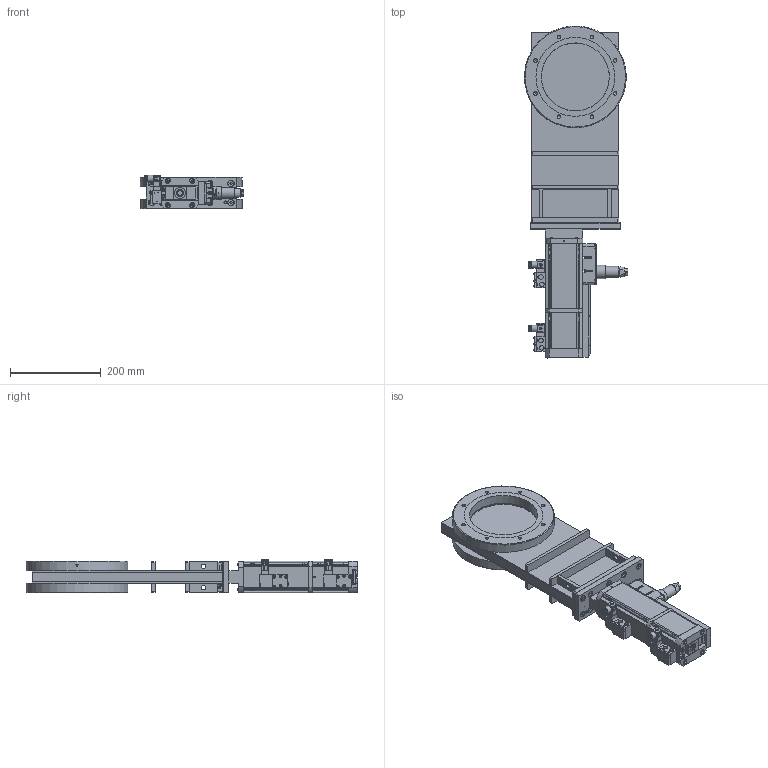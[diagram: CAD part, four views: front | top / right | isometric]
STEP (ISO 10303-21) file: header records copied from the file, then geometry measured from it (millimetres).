
FILE_DESCRIPTION(/* description */ (''),/* implementation_level */ '2;1');
FILE_NAME(/* name */ '1491452060_203.stp',/* time_stamp */ '2016-09-22T08:27:08+02:00',/* author */ (''),/* organization */ (''),/* preprocessor_version */ 'ST-DEVELOPER v15',/* originating_system */ 'SIEMENS PLM Software NX 9.0',/* authorisation */ '');
FILE_SCHEMA (('AP203_CONFIGURATION_CONTROLLED_3D_DESIGN_OF_MECHANICAL_PARTS_AND_ASSEMBLIES_MIM_LF { 1 0 10303 403 2 1 2}'));
Products named in the file (63): 804858_22870ID; 804850_22893ID; 804857_22891ID; 804857_22890ID; 804844_22889ID; 804853_22888ID; 804858_22887ID; 804844_22886ID; 804857_22884ID; 804858_22883ID; 804853_22882ID; 804845_22880ID; 804845_22879ID; 804857_22877ID; 804858_22871ID; 500156; 800510; 387037; 800510_22853ID; 467882; 437235; 51434-01.1_22714ID; 51434-01.1_22875ID; n-6099-492.1; n-6011-049.1; 70973-01.1; 69129.1; 72872-01.1_22778ID; N-7557-016_1.1; N-7557-018.1; N-7557-016_2.1; N-6024-524.1; N-5018-005.1; N-6005-477.1; N-6013-447.1; N-6005-473.1; N-6005-437.1; 72845-01.1; 72846-01.1; 73706-01.1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
Assembly tree (97 placements, depth 4):
  370689.1
    93160-01.1
    94307-r1.2
      73701-01.1  x4
      73704-01.1
      73690-01.1
      70738-01.1
      94311-01.1
      73699-01.1
      72840-01.1
      79606-01.2
      73706-01.1
      72846-01.1
      72845-01.1
      N-6005-437.1  x4
      N-6005-473.1  x2
      N-6013-447.1  x2
      N-6005-477.1  x4
    94800-r1.7_NX-ARRAGMNTKONFIG1  x2
      N-5018-005.1
      N-6024-524.1
      N-7557-016_2.1
      N-7557-018.1
      N-7557-016_1.1
      N-7557-016_3.1_MODELNX-ARRAGMNTArrangement 1
        437235
        467882
    82469-r1.1
      72872-01.1_22778ID
      69129.1
    94223-01.1
    73004-01.1  x4
    387035
      70973-01.1
      n-6011-049.1  x2
      387036_MODELNX-ARRAGMNTMikroschalter neue Höhe
        800510_22853ID
        387037
        800510
        500156
    n-6024-548.1  x4
    n-8504-002
    218198.1  x10
    52588-r1.1
      804898_MODEL
        804858_22871ID
        804857_22877ID
        804845_22879ID
        804845_22880ID
        804853_22882ID
        804858_22883ID
        804857_22884ID
        804844_22886ID
        804858_22887ID
        804853_22888ID
        804844_22889ID
        804857_22890ID
        804857_22891ID
        804850_22893ID
        804858_22870ID
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Bounding box: 227.95 x 733.22 x 74.35 mm (x, y, z)
Volume: 3301721.9 mm3; surface area: 1040912.8 mm2
Topology: 154 solids, 154 shells, 3423 faces, 8283 edges, 5419 vertices
Faces by surface type: plane 2149, cylinder 813, cone 208, torus 93, extrusion 91, sphere 37, bspline 32
Full cylindrical faces by diameter (mm): 0.5 x1, 1 x8, 1.1 x14, 1.5 x11, 1.6 x14, 1.66 x7, 2 x1, 2.125 x1, 2.265 x2, 2.46 x2, 2.5 x10, 2.65 x1, 3 x24, 3.2 x4, 3.26 x4, 3.3 x12, 3.4 x10, 3.5 x7, 3.8 x2, 4 x22, 4.2 x5, 4.22 x2, 4.3 x6, 4.4 x8, 4.45 x4, 4.625 x2, 4.917 x4, 4.96 x6, 5 x13, 5.5 x2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
Entity records: 88656 total; most frequent: CARTESIAN_POINT 20756, DIRECTION 10490, ORIENTED_EDGE 10362, EDGE_CURVE 5181, AXIS2_PLACEMENT_3D 3869, VERTEX_POINT 3691, EDGE_LOOP 3243, VECTOR 2752
